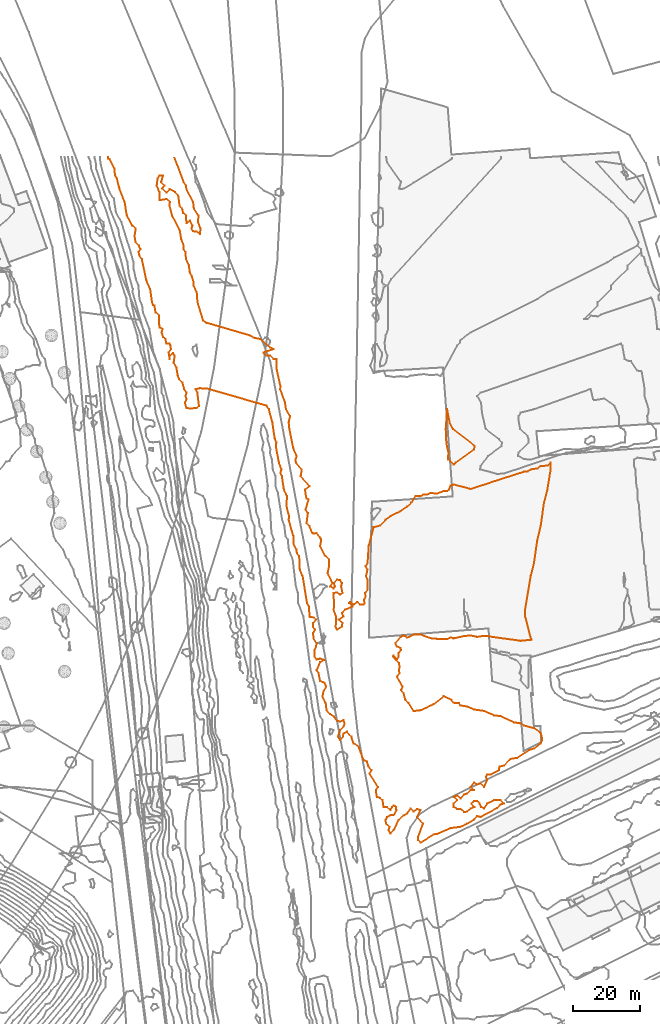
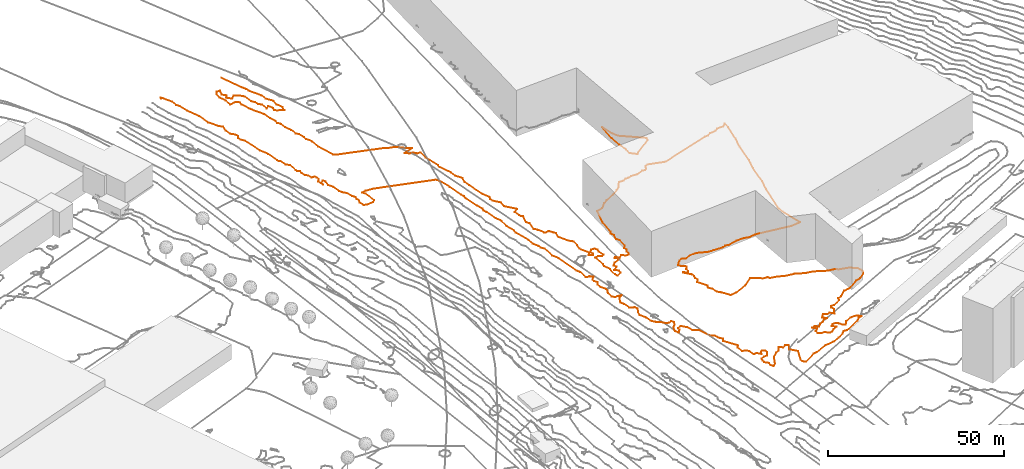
# Not in any storey, part 309 of 419: 2 proxies.
"""IFC2X3 model written with IfcOpenShell, lengths in metres."""

from ifc_helpers import new_model, entity, si_unit, frame, origin_with_axes, place, context, subcontext, project, element, save


model = new_model("IFC2X3")

# Units and contexts
model_context = context("Model", 3, precision=1e-05, world=origin_with_axes())
body_context = subcontext(model_context, "Body", "Model", "MODEL_VIEW")
ifc_project = project(units=[si_unit("AREAUNIT", "SQUARE_METRE"), si_unit("LENGTHUNIT", "METRE")], contexts=[model_context])

# Proxies
proxy_1_placement = place(None, frame((225.6829293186, 950.8976909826, 31.0), z_axis=(0.0, 0.0, 1.0), x_axis=(1.0, 0.0, 0.0)))
element("IfcBuildingElementProxy", 1, at=proxy_1_placement, Name="Contour 31.0 m", ObjectType="NOTDEFINED", context=body_context, shape_type="GeometricCurveSet", body=[
    entity("IfcGeometricCurveSet", [entity("IfcPolyline", [entity("IfcCartesianPoint", [2.9424252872, -10.0, 0.0]), entity("IfcCartesianPoint", [2.4090911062, -10.6153880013, 0.0]), entity("IfcCartesianPoint", [0.6948044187, -9.0, 0.0]), entity("IfcCartesianPoint", [0.8049243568, -7.0, 0.0]), entity("IfcCartesianPoint", [0.1963248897, -4.0, 0.0]), entity("IfcCartesianPoint", [0.0, 0.0, 0.0]), entity("IfcCartesianPoint", [0.4090911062, 6.0000999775, 0.0]), entity("IfcCartesianPoint", [1.2090872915, 2.0, 0.0]), entity("IfcCartesianPoint", [2.2090872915, 0.0, 0.0]), entity("IfcCartesianPoint", [8.6818231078, -5.0, 0.0]), entity("IfcCartesianPoint", [8.4090977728, -6.0, 0.0]), entity("IfcCartesianPoint", [2.9424252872, -10.0, 0.0])])]),
])
proxy_2_placement = place(None, frame((124.6920204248, 1031.8976909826, 31.0), z_axis=(0.0, 0.0, 1.0), x_axis=(1.0, 0.0, 0.0)))
element("IfcBuildingElementProxy", 2, at=proxy_2_placement, Name="Contour 31.0 m", ObjectType="NOTDEFINED", context=body_context, shape_type="GeometricCurveSet", body=[
    entity("IfcGeometricCurveSet", [entity("IfcPolyline", [entity("IfcCartesianPoint", [19.744827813, 0.5, 0.0]), entity("IfcCartesianPoint", [22.5904796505, -7.0, 0.0]), entity("IfcCartesianPoint", [23.249997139, -8.0, 0.0]), entity("IfcCartesianPoint", [23.4, -9.1666719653, 0.0]), entity("IfcCartesianPoint", [25.4, -12.9999875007, 0.0]), entity("IfcCartesianPoint", [25.6307726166, -15.0, 0.0]), entity("IfcCartesianPoint", [26.9714305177, -17.0, 0.0]), entity("IfcCartesianPoint", [26.9000055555, -19.0, 0.0]), entity("IfcCartesianPoint", [27.6222269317, -21.0, 0.0]), entity("IfcCartesianPoint", [27.4, -22.5999999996, 0.0]), entity("IfcCartesianPoint", [26.4, -21.8888865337, 0.0]), entity("IfcCartesianPoint", [25.4, -21.75, 0.0]), entity("IfcCartesianPoint", [24.8999833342, -21.0, 0.0]), entity("IfcCartesianPoint", [25.15, -20.0, 0.0]), entity("IfcCartesianPoint", [24.4, -18.5000499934, 0.0]), entity("IfcCartesianPoint", [23.4, -19.333333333, 0.0]), entity("IfcCartesianPoint", [23.2749970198, -17.0, 0.0]), entity("IfcCartesianPoint", [22.4, -16.2222269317, 0.0]), entity("IfcCartesianPoint", [22.1500023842, -15.0, 0.0]), entity("IfcCartesianPoint", [21.3428558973, -14.0, 0.0]), entity("IfcCartesianPoint", [20.9454561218, -11.0, 0.0]), entity("IfcCartesianPoint", [20.0363573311, -10.0, 0.0]), entity("IfcCartesianPoint", [18.4, -9.1052652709, 0.0]), entity("IfcCartesianPoint", [17.4, -10.2000000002, 0.0]), entity("IfcCartesianPoint", [16.1499960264, -9.0, 0.0]), entity("IfcCartesianPoint", [16.7684184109, -8.0, 0.0]), entity("IfcCartesianPoint", [15.8285701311, -7.0, 0.0]), entity("IfcCartesianPoint", [16.3999000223, -5.0, 0.0]), entity("IfcCartesianPoint", [15.2888865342, -5.0, 0.0]), entity("IfcCartesianPoint", [14.763642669, -6.0, 0.0]), entity("IfcCartesianPoint", [14.4909106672, -8.0, 0.0]), entity("IfcCartesianPoint", [15.2823503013, -10.0, 0.0]), entity("IfcCartesianPoint", [15.4, -12.4285714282, 0.0]), entity("IfcCartesianPoint", [17.4, -12.100001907, 0.0]), entity("IfcCartesianPoint", [18.4263163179, -13.0, 0.0]), entity("IfcCartesianPoint", [18.3032240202, -14.0, 0.0]), entity("IfcCartesianPoint", [19.1169811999, -17.0, 0.0]), entity("IfcCartesianPoint", [21.4, -21.3500004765, 0.0]), entity("IfcCartesianPoint", [21.8461542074, -24.0, 0.0]), entity("IfcCartesianPoint", [22.555555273, -26.0, 0.0]), entity("IfcCartesianPoint", [22.481082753, -27.0, 0.0]), entity("IfcCartesianPoint", [23.096968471, -28.0, 0.0]), entity("IfcCartesianPoint", [23.2703706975, -30.0, 0.0]), entity("IfcCartesianPoint", [24.15, -32.0, 0.0]), entity("IfcCartesianPoint", [24.4, -34.1333367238, 0.0]), entity("IfcCartesianPoint", [24.9652148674, -35.0, 0.0]), entity("IfcCartesianPoint", [25.5875004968, -37.0, 0.0]), entity("IfcCartesianPoint", [25.5764689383, -38.0, 0.0]), entity("IfcCartesianPoint", [26.4800018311, -40.0, 0.0]), entity("IfcCartesianPoint", [26.7090914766, -43.0, 0.0]), entity("IfcCartesianPoint", [28.4, -48.5263163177, 0.0]), entity("IfcCartesianPoint", [29.4, -49.1428600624, 0.0]), entity("IfcCartesianPoint", [42.4, -52.9444432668, 0.0]), entity("IfcCartesianPoint", [43.4, -53.5833359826, 0.0]), entity("IfcCartesianPoint", [45.4000333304, -54.0, 0.0]), entity("IfcCartesianPoint", [48.4, -56.4999500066, 0.0]), entity("IfcCartesianPoint", [49.4000499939, -57.0, 0.0]), entity("IfcCartesianPoint", [46.4000999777, -58.0, 0.0]), entity("IfcCartesianPoint", [47.4, -58.9999000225, 0.0]), entity("IfcCartesianPoint", [48.4, -58.9999000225, 0.0]), entity("IfcCartesianPoint", [49.4, -59.9999000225, 0.0]), entity("IfcCartesianPoint", [50.4, -59.9999000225, 0.0]), entity("IfcCartesianPoint", [50.4000076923, -63.0, 0.0]), entity("IfcCartesianPoint", [51.5250029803, -68.0, 0.0]), entity("IfcCartesianPoint", [51.4588248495, -69.0, 0.0]), entity("IfcCartesianPoint", [52.9128207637, -73.0, 0.0]), entity("IfcCartesianPoint", [53.1812507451, -75.0, 0.0]), entity("IfcCartesianPoint", [54.3799995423, -77.0, 0.0]), entity("IfcCartesianPoint", [54.00869421, -79.0, 0.0]), entity("IfcCartesianPoint", [54.2148166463, -81.0, 0.0]), entity("IfcCartesianPoint", [55.4, -86.7999999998, 0.0]), entity("IfcCartesianPoint", [56.4000076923, -89.0, 0.0]), entity("IfcCartesianPoint", [56.0153880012, -90.0, 0.0]), entity("IfcCartesianPoint", [56.1499960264, -91.0, 0.0]), entity("IfcCartesianPoint", [57.9000166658, -93.0, 0.0]), entity("IfcCartesianPoint", [57.6, -95.0, 0.0]), entity("IfcCartesianPoint", [60.2000000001, -98.0, 0.0]), entity("IfcCartesianPoint", [58.9000499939, -99.0, 0.0]), entity("IfcCartesianPoint", [59.1499940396, -101.0, 0.0]), entity("IfcCartesianPoint", [59.4, -101.666666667, 0.0]), entity("IfcCartesianPoint", [59.9000499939, -102.0, 0.0]), entity("IfcCartesianPoint", [59.0666666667, -105.0, 0.0]), entity("IfcCartesianPoint", [59.7333333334, -106.0, 0.0]), entity("IfcCartesianPoint", [59.3545442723, -109.0, 0.0]), entity("IfcCartesianPoint", [60.1777730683, -110.0, 0.0]), entity("IfcCartesianPoint", [61.0666666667, -112.0, 0.0]), entity("IfcCartesianPoint", [61.4, -112.25, 0.0]), entity("IfcCartesianPoint", [62.4000499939, -112.0, 0.0]), entity("IfcCartesianPoint", [63.4, -113.333333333, 0.0]), entity("IfcCartesianPoint", [63.7333333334, -114.0, 0.0]), entity("IfcCartesianPoint", [63.4000499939, -116.0, 0.0]), entity("IfcCartesianPoint", [65.0, -119.0, 0.0]), entity("IfcCartesianPoint", [66.0, -120.0, 0.0]), entity("IfcCartesianPoint", [66.0666666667, -122.0, 0.0]), entity("IfcCartesianPoint", [65.65, -124.0, 0.0]), entity("IfcCartesianPoint", [67.0666666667, -127.0, 0.0]), entity("IfcCartesianPoint", [66.4000499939, -128.0, 0.0]), entity("IfcCartesianPoint", [67.4, -128.666666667, 0.0]), entity("IfcCartesianPoint", [67.8, -128.0, 0.0]), entity("IfcCartesianPoint", [67.5428610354, -127.0, 0.0]), entity("IfcCartesianPoint", [68.4, -125.9999800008, 0.0]), entity("IfcCartesianPoint", [69.4, -126.1250029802, 0.0]), entity("IfcCartesianPoint", [69.9000071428, -127.0, 0.0]), entity("IfcCartesianPoint", [69.6857220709, -128.0, 0.0]), entity("IfcCartesianPoint", [70.1142779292, -130.0, 0.0]), entity("IfcCartesianPoint", [69.4, -130.4166640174, 0.0]), entity("IfcCartesianPoint", [68.4, -129.8571389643, 0.0]), entity("IfcCartesianPoint", [67.4000999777, -130.0, 0.0]), entity("IfcCartesianPoint", [67.6222269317, -134.0, 0.0]), entity("IfcCartesianPoint", [67.4000199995, -135.0, 0.0]), entity("IfcCartesianPoint", [68.2000000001, -137.0, 0.0]), entity("IfcCartesianPoint", [68.0666666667, -140.0, 0.0]), entity("IfcCartesianPoint", [68.4, -140.9999000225, 0.0]), entity("IfcCartesianPoint", [69.8999750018, -140.0, 0.0]), entity("IfcCartesianPoint", [70.0666666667, -139.0, 0.0]), entity("IfcCartesianPoint", [68.8999750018, -138.0, 0.0]), entity("IfcCartesianPoint", [70.3999500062, -137.0, 0.0]), entity("IfcCartesianPoint", [69.8999500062, -136.0, 0.0]), entity("IfcCartesianPoint", [70.8999500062, -135.0, 0.0]), entity("IfcCartesianPoint", [73.0666666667, -134.0, 0.0]), entity("IfcCartesianPoint", [72.0666666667, -133.0, 0.0]), entity("IfcCartesianPoint", [72.4, -132.666666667, 0.0]), entity("IfcCartesianPoint", [73.4, -133.4999500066, 0.0]), entity("IfcCartesianPoint", [74.4, -132.666666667, 0.0]), entity("IfcCartesianPoint", [75.4, -133.4999750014, 0.0]), entity("IfcCartesianPoint", [76.4, -133.4999750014, 0.0]), entity("IfcCartesianPoint", [76.6857220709, -133.0, 0.0]), entity("IfcCartesianPoint", [76.5666719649, -132.0, 0.0]), entity("IfcCartesianPoint", [77.0666666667, -131.0, 0.0]), entity("IfcCartesianPoint", [76.8444538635, -130.0, 0.0]), entity("IfcCartesianPoint", [77.6500039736, -129.0, 0.0]), entity("IfcCartesianPoint", [77.6272699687, -126.0, 0.0]), entity("IfcCartesianPoint", [77.1142779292, -125.0, 0.0]), entity("IfcCartesianPoint", [77.5666693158, -123.0, 0.0]), entity("IfcCartesianPoint", [77.0153880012, -122.0, 0.0]), entity("IfcCartesianPoint", [77.5923059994, -121.0, 0.0]), entity("IfcCartesianPoint", [77.9500009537, -116.0, 0.0]), entity("IfcCartesianPoint", [79.4, -110.333333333, 0.0]), entity("IfcCartesianPoint", [81.4, -109.75, 0.0]), entity("IfcCartesianPoint", [83.0249910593, -108.0, 0.0]), entity("IfcCartesianPoint", [84.4, -106.9999875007, 0.0]), entity("IfcCartesianPoint", [87.4, -105.499983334, 0.0]), entity("IfcCartesianPoint", [89.4, -104.1538484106, 0.0]), entity("IfcCartesianPoint", [90.6727320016, -103.0, 0.0]), entity("IfcCartesianPoint", [91.8999833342, -101.0, 0.0]), entity("IfcCartesianPoint", [93.4, -100.9999970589, 0.0]), entity("IfcCartesianPoint", [94.4, -100.4634161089, 0.0]), entity("IfcCartesianPoint", [95.4, -100.5370378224, 0.0]), entity("IfcCartesianPoint", [96.4, -100.0975627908, 0.0]), entity("IfcCartesianPoint", [98.4, -100.238805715, 0.0]), entity("IfcCartesianPoint", [100.4, -99.4430379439, 0.0]), entity("IfcCartesianPoint", [101.4, -99.52238857, 0.0]), entity("IfcCartesianPoint", [101.9833335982, -99.0, 0.0]), entity("IfcCartesianPoint", [102.4, -97.8571402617, 0.0]), entity("IfcCartesianPoint", [103.4, -97.5333341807, 0.0]), entity("IfcCartesianPoint", [108.4, -98.8666632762, 0.0]), entity("IfcCartesianPoint", [124.4, -93.6956528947, 0.0]), entity("IfcCartesianPoint", [125.4, -93.581394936, 0.0]), entity("IfcCartesianPoint", [126.4714305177, -93.0, 0.0]), entity("IfcCartesianPoint", [128.4, -92.6857128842, 0.0]), entity("IfcCartesianPoint", [129.4, -91.9999985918, 0.0]), entity("IfcCartesianPoint", [131.4, -91.8888865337, 0.0]), entity("IfcCartesianPoint", [132.4000499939, -91.0, 0.0]), entity("IfcCartesianPoint", [132.4000333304, -93.0, 0.0]), entity("IfcCartesianPoint", [131.4000333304, -99.0, 0.0]), entity("IfcCartesianPoint", [130.4000499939, -103.0, 0.0]), entity("IfcCartesianPoint", [129.4000333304, -110.0, 0.0]), entity("IfcCartesianPoint", [128.4000499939, -114.0, 0.0]), entity("IfcCartesianPoint", [127.4000333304, -121.0, 0.0]), entity("IfcCartesianPoint", [126.4000499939, -125.0, 0.0]), entity("IfcCartesianPoint", [124.7333333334, -135.0, 0.0]), entity("IfcCartesianPoint", [124.8, -137.0, 0.0]), entity("IfcCartesianPoint", [126.6, -144.0, 0.0]), entity("IfcCartesianPoint", [123.4, -144.3055567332, 0.0]), entity("IfcCartesianPoint", [112.4, -142.8085100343, 0.0]), entity("IfcCartesianPoint", [110.4, -143.1363628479, 0.0]), entity("IfcCartesianPoint", [108.4, -142.7260268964, 0.0]), entity("IfcCartesianPoint", [106.4, -142.8833339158, 0.0]), entity("IfcCartesianPoint", [103.4, -143.5842693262, 0.0]), entity("IfcCartesianPoint", [102.4, -143.3265304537, 0.0]), entity("IfcCartesianPoint", [101.4, -143.7755088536, 0.0]), entity("IfcCartesianPoint", [98.4, -143.714284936, 0.0]), entity("IfcCartesianPoint", [96.4, -143.5555567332, 0.0]), entity("IfcCartesianPoint", [93.4, -142.4444432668, 0.0]), entity("IfcCartesianPoint", [92.4, -142.4117627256, 0.0]), entity("IfcCartesianPoint", [91.4, -142.4615373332, 0.0]), entity("IfcCartesianPoint", [89.4, -143.3750089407, 0.0]), entity("IfcCartesianPoint", [88.4, -142.75, 0.0]), entity("IfcCartesianPoint", [87.4, -143.2000000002, 0.0]), entity("IfcCartesianPoint", [85.9000166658, -145.0, 0.0]), entity("IfcCartesianPoint", [86.4, -145.9999666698, 0.0]), entity("IfcCartesianPoint", [87.4, -146.4999500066, 0.0]), entity("IfcCartesianPoint", [87.6, -147.0, 0.0]), entity("IfcCartesianPoint", [86.9000166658, -148.0, 0.0]), entity("IfcCartesianPoint", [86.9000124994, -149.0, 0.0]), entity("IfcCartesianPoint", [86.4, -149.7999999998, 0.0]), entity("IfcCartesianPoint", [85.4, -148.666666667, 0.0]), entity("IfcCartesianPoint", [85.2333280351, -149.0, 0.0]), entity("IfcCartesianPoint", [87.0, -151.0, 0.0]), entity("IfcCartesianPoint", [87.2000000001, -152.0, 0.0]), entity("IfcCartesianPoint", [86.9714285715, -153.0, 0.0]), entity("IfcCartesianPoint", [87.15, -154.0, 0.0]), entity("IfcCartesianPoint", [86.4000999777, -155.0, 0.0]), entity("IfcCartesianPoint", [88.0666666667, -158.0, 0.0]), entity("IfcCartesianPoint", [87.65, -159.0, 0.0]), entity("IfcCartesianPoint", [88.4000166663, -160.0, 0.0]), entity("IfcCartesianPoint", [88.9000499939, -162.0, 0.0]), entity("IfcCartesianPoint", [89.9000499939, -163.0, 0.0]), entity("IfcCartesianPoint", [91.4, -165.333333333, 0.0]), entity("IfcCartesianPoint", [93.4, -165.0967759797, 0.0]), entity("IfcCartesianPoint", [97.4, -163.2857181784, 0.0]), entity("IfcCartesianPoint", [100.4, -160.8965496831, 0.0]), entity("IfcCartesianPoint", [102.6666700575, -162.0, 0.0]), entity("IfcCartesianPoint", [103.4, -162.8461515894, 0.0]), entity("IfcCartesianPoint", [104.9000249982, -163.0, 0.0]), entity("IfcCartesianPoint", [105.4, -163.666666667, 0.0]), entity("IfcCartesianPoint", [107.4000142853, -164.0, 0.0]), entity("IfcCartesianPoint", [109.4, -164.8666632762, 0.0]), entity("IfcCartesianPoint", [112.4, -165.3000057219, 0.0]), entity("IfcCartesianPoint", [115.4, -166.6111134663, 0.0]), entity("IfcCartesianPoint", [117.4, -166.886365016, 0.0]), entity("IfcCartesianPoint", [121.4, -168.7333299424, 0.0]), entity("IfcCartesianPoint", [123.4000142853, -169.0, 0.0]), entity("IfcCartesianPoint", [124.4, -169.6999942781, 0.0]), entity("IfcCartesianPoint", [127.4, -170.4545438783, 0.0]), entity("IfcCartesianPoint", [129.4, -171.8749970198, 0.0]), entity("IfcCartesianPoint", [129.7333333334, -173.0, 0.0]), entity("IfcCartesianPoint", [129.8210510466, -174.0, 0.0]), entity("IfcCartesianPoint", [129.4000071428, -175.0, 0.0]), entity("IfcCartesianPoint", [127.4, -176.5294124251, 0.0]), entity("IfcCartesianPoint", [125.9000083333, -177.0, 0.0]), entity("IfcCartesianPoint", [122.4, -179.333340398, 0.0]), entity("IfcCartesianPoint", [120.4, -179.6428610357, 0.0]), entity("IfcCartesianPoint", [118.4, -181.5714285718, 0.0]), entity("IfcCartesianPoint", [117.0666666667, -182.0, 0.0]), entity("IfcCartesianPoint", [116.9000499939, -183.0, 0.0]), entity("IfcCartesianPoint", [114.4, -184.333333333, 0.0]), entity("IfcCartesianPoint", [113.4, -184.333333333, 0.0]), entity("IfcCartesianPoint", [113.0, -185.0, 0.0]), entity("IfcCartesianPoint", [113.4000333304, -186.0, 0.0]), entity("IfcCartesianPoint", [112.4, -188.0000249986, 0.0]), entity("IfcCartesianPoint", [111.4, -187.0000999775, 0.0]), entity("IfcCartesianPoint", [110.4, -187.333333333, 0.0]), entity("IfcCartesianPoint", [109.4, -186.666666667, 0.0]), entity("IfcCartesianPoint", [108.4000999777, -188.0, 0.0]), entity("IfcCartesianPoint", [109.4, -189.0000249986, 0.0]), entity("IfcCartesianPoint", [108.4, -189.0000999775, 0.0]), entity("IfcCartesianPoint", [107.4, -190.0000999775, 0.0]), entity("IfcCartesianPoint", [106.4, -190.333333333, 0.0]), entity("IfcCartesianPoint", [105.4, -191.5000499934, 0.0]), entity("IfcCartesianPoint", [104.4, -190.5999999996, 0.0]), entity("IfcCartesianPoint", [103.4000499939, -191.0, 0.0]), entity("IfcCartesianPoint", [104.4000999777, -192.0, 0.0]), entity("IfcCartesianPoint", [103.4000999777, -193.0, 0.0]), entity("IfcCartesianPoint", [103.4000333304, -194.0, 0.0]), entity("IfcCartesianPoint", [104.4, -194.5999999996, 0.0]), entity("IfcCartesianPoint", [105.4, -194.5999999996, 0.0]), entity("IfcCartesianPoint", [106.4, -195.5999923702, 0.0]), entity("IfcCartesianPoint", [107.4, -195.4285714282, 0.0]), entity("IfcCartesianPoint", [108.4, -194.4999750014, 0.0]), entity("IfcCartesianPoint", [109.6, -194.0, 0.0]), entity("IfcCartesianPoint", [108.65, -193.0, 0.0]), entity("IfcCartesianPoint", [109.4, -192.25, 0.0]), entity("IfcCartesianPoint", [110.4, -192.25, 0.0]), entity("IfcCartesianPoint", [111.15, -193.0, 0.0]), entity("IfcCartesianPoint", [111.6, -194.0, 0.0]), entity("IfcCartesianPoint", [112.4, -194.4444538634, 0.0]), entity("IfcCartesianPoint", [113.4, -192.9999666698, 0.0]), entity("IfcCartesianPoint", [115.4, -191.9999500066, 0.0]), entity("IfcCartesianPoint", [117.4, -191.9999750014, 0.0]), entity("IfcCartesianPoint", [118.4000199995, -193.0, 0.0]), entity("IfcCartesianPoint", [117.4, -193.2500059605, 0.0]), entity("IfcCartesianPoint", [116.4, -194.3157889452, 0.0]), entity("IfcCartesianPoint", [111.4000124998, -197.0, 0.0]), entity("IfcCartesianPoint", [110.4, -196.7999961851, 0.0]), entity("IfcCartesianPoint", [109.4, -197.8235254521, 0.0]), entity("IfcCartesianPoint", [107.4, -199.0454557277, 0.0]), entity("IfcCartesianPoint", [105.2571389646, -200.0, 0.0]), entity("IfcCartesianPoint", [102.4, -200.3529378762, 0.0]), entity("IfcCartesianPoint", [98.4, -202.100001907, 0.0]), entity("IfcCartesianPoint", [97.4, -202.2500029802, 0.0]), entity("IfcCartesianPoint", [93.4, -204.7142779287, 0.0]), entity("IfcCartesianPoint", [92.6857220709, -204.0, 0.0]), entity("IfcCartesianPoint", [92.700005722, -203.0, 0.0]), entity("IfcCartesianPoint", [94.15, -199.0, 0.0]), entity("IfcCartesianPoint", [92.3999500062, -197.0, 0.0]), entity("IfcCartesianPoint", [93.3999000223, -195.0, 0.0]), entity("IfcCartesianPoint", [92.4, -194.666666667, 0.0]), entity("IfcCartesianPoint", [91.4, -195.333333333, 0.0]), entity("IfcCartesianPoint", [90.4, -194.500016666, 0.0]), entity("IfcCartesianPoint", [89.4000249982, -196.0, 0.0]), entity("IfcCartesianPoint", [88.4, -196.5384626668, 0.0]), entity("IfcCartesianPoint", [86.8, -198.0, 0.0]), entity("IfcCartesianPoint", [85.4, -201.0000142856, 0.0]), entity("IfcCartesianPoint", [84.3999833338, -202.0, 0.0]), entity("IfcCartesianPoint", [83.8999875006, -201.0, 0.0]), entity("IfcCartesianPoint", [84.1272679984, -200.0, 0.0]), entity("IfcCartesianPoint", [83.0666596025, -199.0, 0.0]), entity("IfcCartesianPoint", [83.0363573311, -198.0, 0.0]), entity("IfcCartesianPoint", [83.4, -196.9999750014, 0.0]), entity("IfcCartesianPoint", [84.4, -196.4999750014, 0.0]), entity("IfcCartesianPoint", [85.4, -196.4999500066, 0.0]), entity("IfcCartesianPoint", [86.2000000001, -195.0, 0.0]), entity("IfcCartesianPoint", [86.15, -194.0, 0.0]), entity("IfcCartesianPoint", [85.4, -193.6249910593, 0.0]), entity("IfcCartesianPoint", [84.9000166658, -194.0, 0.0]), entity("IfcCartesianPoint", [84.4, -195.0000499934, 0.0]), entity("IfcCartesianPoint", [83.4, -194.0000333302, 0.0]), entity("IfcCartesianPoint", [82.3999500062, -194.0, 0.0]), entity("IfcCartesianPoint", [82.0666666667, -192.0, 0.0]), entity("IfcCartesianPoint", [81.4, -191.333333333, 0.0]), entity("IfcCartesianPoint", [80.3999750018, -191.0, 0.0]), entity("IfcCartesianPoint", [80.0666666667, -189.0, 0.0]), entity("IfcCartesianPoint", [80.7333333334, -188.0, 0.0]), entity("IfcCartesianPoint", [78.1777730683, -184.0, 0.0]), entity("IfcCartesianPoint", [78.7333333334, -183.0, 0.0]), entity("IfcCartesianPoint", [77.8999833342, -182.0, 0.0]), entity("IfcCartesianPoint", [77.4, -180.5000249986, 0.0]), entity("IfcCartesianPoint", [76.3999666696, -180.0, 0.0]), entity("IfcCartesianPoint", [74.8999500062, -176.0, 0.0]), entity("IfcCartesianPoint", [73.3999666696, -175.0, 0.0]), entity("IfcCartesianPoint", [72.7333333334, -173.0, 0.0]), entity("IfcCartesianPoint", [71.4, -171.5000249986, 0.0]), entity("IfcCartesianPoint", [70.4000499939, -172.0, 0.0]), entity("IfcCartesianPoint", [70.2000000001, -173.0, 0.0]), entity("IfcCartesianPoint", [69.4000499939, -174.0, 0.0]), entity("IfcCartesianPoint", [68.7333333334, -173.0, 0.0]), entity("IfcCartesianPoint", [69.3999750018, -171.0, 0.0]), entity("IfcCartesianPoint", [70.4, -169.9999500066, 0.0]), entity("IfcCartesianPoint", [70.7333333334, -169.0, 0.0]), entity("IfcCartesianPoint", [70.4, -168.0000499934, 0.0]), entity("IfcCartesianPoint", [69.4, -168.5000499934, 0.0]), entity("IfcCartesianPoint", [68.4, -168.1428610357, 0.0]), entity("IfcCartesianPoint", [67.5428610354, -167.0, 0.0]), entity("IfcCartesianPoint", [66.4, -166.2857220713, 0.0]), entity("IfcCartesianPoint", [65.3166649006, -165.0, 0.0]), entity("IfcCartesianPoint", [65.0800003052, -163.0, 0.0]), entity("IfcCartesianPoint", [64.1115394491, -161.0, 0.0]), entity("IfcCartesianPoint", [64.4, -159.4666658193, 0.0]), entity("IfcCartesianPoint", [65.1916696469, -158.0, 0.0]), entity("IfcCartesianPoint", [64.7750089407, -157.0, 0.0]), entity("IfcCartesianPoint", [63.4, -156.3076917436, 0.0]), entity("IfcCartesianPoint", [62.9312507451, -154.0, 0.0]), entity("IfcCartesianPoint", [62.3818178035, -153.0, 0.0]), entity("IfcCartesianPoint", [63.4, -150.7142779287, 0.0]), entity("IfcCartesianPoint", [64.5666719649, -150.0, 0.0]), entity("IfcCartesianPoint", [63.4, -149.6875044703, 0.0]), entity("IfcCartesianPoint", [62.4, -149.8571409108, 0.0]), entity("IfcCartesianPoint", [61.7684184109, -149.0, 0.0]), entity("IfcCartesianPoint", [61.7199996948, -147.0, 0.0]), entity("IfcCartesianPoint", [62.21578987, -146.0, 0.0]), entity("IfcCartesianPoint", [62.2999980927, -145.0, 0.0]), entity("IfcCartesianPoint", [61.4, -143.5000499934, 0.0]), entity("IfcCartesianPoint", [61.3210510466, -142.0, 0.0]), entity("IfcCartesianPoint", [61.8444538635, -141.0, 0.0]), entity("IfcCartesianPoint", [61.2636339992, -140.0, 0.0]), entity("IfcCartesianPoint", [61.2888865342, -139.0, 0.0]), entity("IfcCartesianPoint", [62.1692273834, -138.0, 0.0]), entity("IfcCartesianPoint", [61.4, -137.2857181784, 0.0]), entity("IfcCartesianPoint", [60.4, -137.2500029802, 0.0]), entity("IfcCartesianPoint", [60.2399963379, -137.0, 0.0]), entity("IfcCartesianPoint", [60.0666709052, -134.0, 0.0]), entity("IfcCartesianPoint", [59.5000019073, -133.0, 0.0]), entity("IfcCartesianPoint", [58.1727300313, -125.0, 0.0]), entity("IfcCartesianPoint", [57.316665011, -123.0, 0.0]), entity("IfcCartesianPoint", [57.1352937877, -119.0, 0.0]), entity("IfcCartesianPoint", [56.4476199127, -118.0, 0.0]), entity("IfcCartesianPoint", [56.296549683, -117.0, 0.0]), entity("IfcCartesianPoint", [55.4, -115.2000038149, 0.0]), entity("IfcCartesianPoint", [55.3736836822, -113.0, 0.0]), entity("IfcCartesianPoint", [54.0086958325, -108.0, 0.0]), entity("IfcCartesianPoint", [54.0981138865, -107.0, 0.0]), entity("IfcCartesianPoint", [53.3636356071, -104.0, 0.0]), entity("IfcCartesianPoint", [53.4625014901, -101.0, 0.0]), entity("IfcCartesianPoint", [52.5666701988, -99.0, 0.0]), entity("IfcCartesianPoint", [51.9454555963, -95.0, 0.0]), entity("IfcCartesianPoint", [51.4869586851, -94.0, 0.0]), entity("IfcCartesianPoint", [51.82105316, -93.0, 0.0]), entity("IfcCartesianPoint", [51.0666666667, -91.0, 0.0]), entity("IfcCartesianPoint", [50.1592603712, -86.0, 0.0]), entity("IfcCartesianPoint", [50.3024372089, -85.0, 0.0]), entity("IfcCartesianPoint", [49.8680843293, -84.0, 0.0]), entity("IfcCartesianPoint", [49.103703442, -79.0, 0.0]), entity("IfcCartesianPoint", [48.058537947, -75.0, 0.0]), entity("IfcCartesianPoint", [47.4, -73.9499990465, 0.0]), entity("IfcCartesianPoint", [29.4, -68.7999974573, 0.0]), entity("IfcCartesianPoint", [27.4, -68.7272679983, 0.0]), entity("IfcCartesianPoint", [26.15, -69.0, 0.0]), entity("IfcCartesianPoint", [26.65, -70.0, 0.0]), entity("IfcCartesianPoint", [27.15, -74.0, 0.0]), entity("IfcCartesianPoint", [26.4, -74.5999999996, 0.0]), entity("IfcCartesianPoint", [24.4, -74.8333306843, 0.0]), entity("IfcCartesianPoint", [23.4, -74.5999999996, 0.0]), entity("IfcCartesianPoint", [22.9454561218, -73.0, 0.0]), entity("IfcCartesianPoint", [23.3999500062, -72.0, 0.0]), entity("IfcCartesianPoint", [23.15, -71.0, 0.0]), entity("IfcCartesianPoint", [23.3999666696, -70.0, 0.0]), entity("IfcCartesianPoint", [22.7333333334, -69.0, 0.0]), entity("IfcCartesianPoint", [22.2000000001, -67.0, 0.0]), entity("IfcCartesianPoint", [21.2000000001, -66.0, 0.0]), entity("IfcCartesianPoint", [20.8166640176, -65.0, 0.0]), entity("IfcCartesianPoint", [20.4, -62.5000499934, 0.0]), entity("IfcCartesianPoint", [19.6, -61.0, 0.0]), entity("IfcCartesianPoint", [19.866665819, -59.0, 0.0]), entity("IfcCartesianPoint", [19.4, -58.2222269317, 0.0]), entity("IfcCartesianPoint", [18.4000142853, -59.0, 0.0]), entity("IfcCartesianPoint", [18.4, -60.0000333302, 0.0]), entity("IfcCartesianPoint", [18.0666666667, -58.0, 0.0]), entity("IfcCartesianPoint", [18.7333333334, -57.0, 0.0]), entity("IfcCartesianPoint", [18.6222269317, -56.0, 0.0]), entity("IfcCartesianPoint", [18.4, -55.333333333, 0.0]), entity("IfcCartesianPoint", [17.4, -55.333333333, 0.0]), entity("IfcCartesianPoint", [17.0666666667, -54.0, 0.0]), entity("IfcCartesianPoint", [16.4, -53.4285714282, 0.0]), entity("IfcCartesianPoint", [15.9833359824, -52.0, 0.0]), entity("IfcCartesianPoint", [16.2000000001, -51.0, 0.0]), entity("IfcCartesianPoint", [15.4, -50.5000124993, 0.0]), entity("IfcCartesianPoint", [15.2709653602, -50.0, 0.0]), entity("IfcCartesianPoint", [15.1777730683, -47.0, 0.0]), entity("IfcCartesianPoint", [14.1777730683, -46.0, 0.0]), entity("IfcCartesianPoint", [13.8, -44.0, 0.0]), entity("IfcCartesianPoint", [13.4, -43.7499940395, 0.0]), entity("IfcCartesianPoint", [13.1142870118, -43.0, 0.0]), entity("IfcCartesianPoint", [12.5428610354, -39.0, 0.0]), entity("IfcCartesianPoint", [11.4, -36.500016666, 0.0]), entity("IfcCartesianPoint", [10.0428610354, -30.0, 0.0]), entity("IfcCartesianPoint", [9.2846128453, -29.0, 0.0]), entity("IfcCartesianPoint", [9.1000009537, -28.0, 0.0]), entity("IfcCartesianPoint", [9.6, -27.0, 0.0]), entity("IfcCartesianPoint", [9.1499960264, -26.0, 0.0]), entity("IfcCartesianPoint", [8.1692330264, -25.0, 0.0]), entity("IfcCartesianPoint", [7.866665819, -23.0, 0.0]), entity("IfcCartesianPoint", [8.2333306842, -21.0, 0.0]), entity("IfcCartesianPoint", [7.1857113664, -20.0, 0.0]), entity("IfcCartesianPoint", [5.5538484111, -17.0, 0.0]), entity("IfcCartesianPoint", [4.8999928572, -13.0, 0.0]), entity("IfcCartesianPoint", [3.3166653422, -9.0, 0.0]), entity("IfcCartesianPoint", [2.6142886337, -6.0, 0.0]), entity("IfcCartesianPoint", [2.0250029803, -5.0, 0.0]), entity("IfcCartesianPoint", [1.8285694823, -3.0, 0.0]), entity("IfcCartesianPoint", [0.4, -0.1818213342, 0.0]), entity("IfcCartesianPoint", [0.0, 0.0, 0.0]), entity("IfcCartesianPoint", [0.0, 0.5, 0.0])])]),
])

save(model, "model.ifc")
